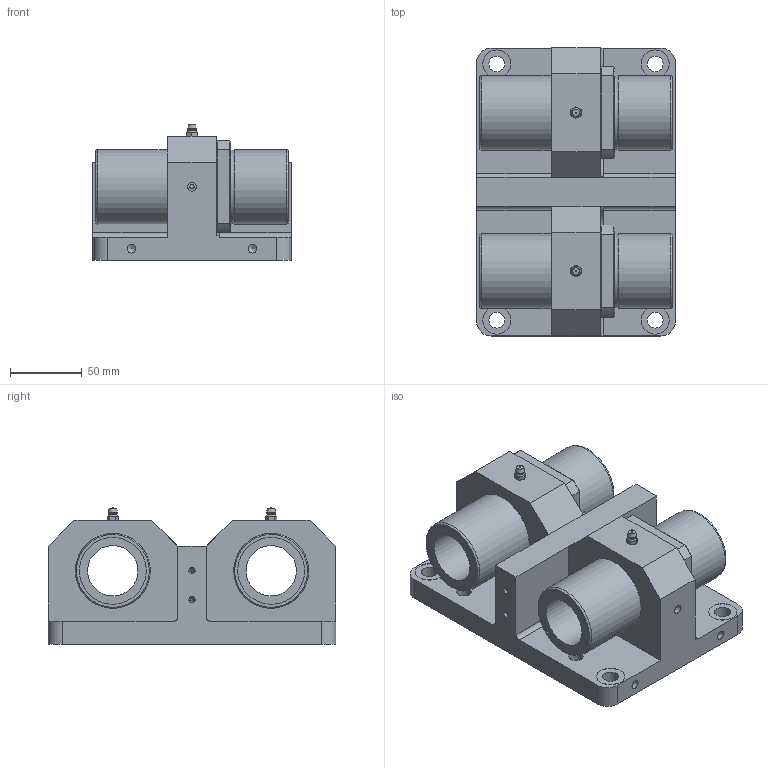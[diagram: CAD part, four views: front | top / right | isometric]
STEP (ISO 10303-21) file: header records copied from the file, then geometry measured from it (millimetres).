
FILE_DESCRIPTION((''),'2;1');
FILE_NAME('D:\製品 (図面)\カタログ用3D\リニアベアリング関連\STEP形式\LUFD\LUFD35.stp','2010-07-29T14:35:22',('Tsuchiya'),(''),'Autodesk Inventor 10','Autodesk Inventor 10','');
FILE_SCHEMA(('AUTOMOTIVE_DESIGN { 1 0 10303 214 1 1 1 1 }'));
Length unit declared in the file: millimetre
Products named in the file (4): LUFD35; LUFD351; LUFD352; LUFD353
Assembly tree (3 placements, depth 2):
  LUFD35
    LUFD351
    LUFD352
    LUFD353
Bounding box: 138 x 200 x 94.8 mm (x, y, z)
Volume: 1178636.6 mm3; surface area: 210509.7 mm2
Topology: 13 solids, 13 shells, 398 faces, 894 edges, 566 vertices
Faces by surface type: plane 160, bspline 83, cylinder 75, cone 64, torus 12, sphere 4
Full cylindrical faces by diameter (mm): 3 x3, 6 x16, 10 x10, 11 x2, 19.5 x2, 35 x2, 46.4 x4, 52 x7
Entity records: 12274 total; most frequent: CARTESIAN_POINT 4704, DIRECTION 1446, ORIENTED_EDGE 1360, EDGE_CURVE 680, EDGE_LOOP 648, AXIS2_PLACEMENT_3D 600, VERTEX_POINT 510, FACE_OUTER_BOUND 398
